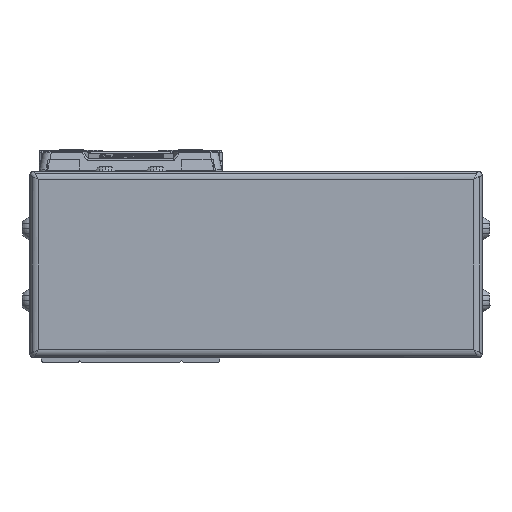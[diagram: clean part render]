
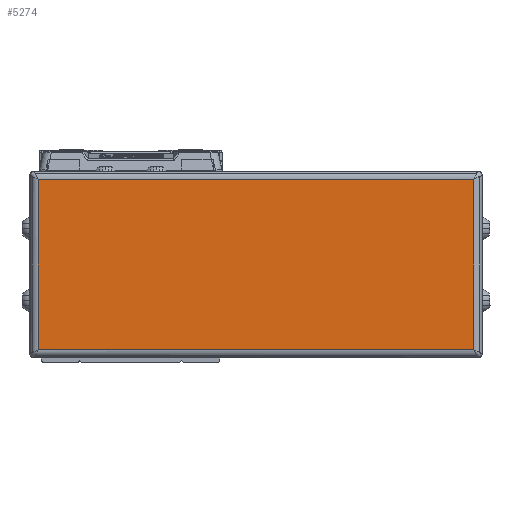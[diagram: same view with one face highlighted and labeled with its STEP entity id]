
A CAD part, left-side view. The second image highlights one B-rep face of the part: STEP entity #5274.
In plain terms, the highlighted planar face has unit normal (-1, 0, 0).
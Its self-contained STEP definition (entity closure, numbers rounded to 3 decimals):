
#5274=ADVANCED_FACE('',(#10677),#10678,.T.);
#10677=FACE_OUTER_BOUND('',#19200,.T.);
#10678=PLANE('',#19201);
#19200=EDGE_LOOP('',(#34431,#34432,#34433,#34434));
#19201=AXIS2_PLACEMENT_3D('',#34435,#34436,#34437);
#34431=ORIENTED_EDGE('',*,*,#38248,.F.);
#34432=ORIENTED_EDGE('',*,*,#37669,.F.);
#34433=ORIENTED_EDGE('',*,*,#40517,.F.);
#34434=ORIENTED_EDGE('',*,*,#40372,.F.);
#34435=CARTESIAN_POINT('',(-48.,-29.5,-4.));
#34436=DIRECTION('',(-1.0,0.,0.));
#34437=DIRECTION('',(0.,0.,1.0));
#37669=EDGE_CURVE('',#41821,#45623,#45624,.T.);
#38248=EDGE_CURVE('',#45623,#44462,#46507,.T.);
#40372=EDGE_CURVE('',#44462,#42033,#49295,.T.);
#40517=EDGE_CURVE('',#42033,#41821,#49454,.T.);
#41821=VERTEX_POINT('',#51229);
#42033=VERTEX_POINT('',#51511);
#44462=VERTEX_POINT('',#55228);
#45623=VERTEX_POINT('',#57107);
#45624=LINE('',#57108,#57109);
#46507=LINE('',#58276,#58277);
#49295=LINE('',#62187,#62188);
#49454=LINE('',#62397,#62398);
#51229=CARTESIAN_POINT('',(-48.,21.7,-24.));
#51511=CARTESIAN_POINT('',(-48.,-80.7,-24.));
#55228=CARTESIAN_POINT('',(-48.,-80.7,16.));
#57107=CARTESIAN_POINT('',(-48.,21.7,16.));
#57108=CARTESIAN_POINT('',(-48.,21.7,-4.));
#57109=VECTOR('',#66666,10.0);
#58276=CARTESIAN_POINT('',(-48.,-29.5,16.));
#58277=VECTOR('',#67558,10.0);
#62187=CARTESIAN_POINT('',(-48.,-80.7,-4.));
#62188=VECTOR('',#70081,10.0);
#62397=CARTESIAN_POINT('',(-48.,-29.5,-24.));
#62398=VECTOR('',#70186,10.0);
#66666=DIRECTION('',(0.,0.,1.0));
#67558=DIRECTION('',(0.,-1.0,0.));
#70081=DIRECTION('',(0.,0.,-1.0));
#70186=DIRECTION('',(0.,1.0,0.));
